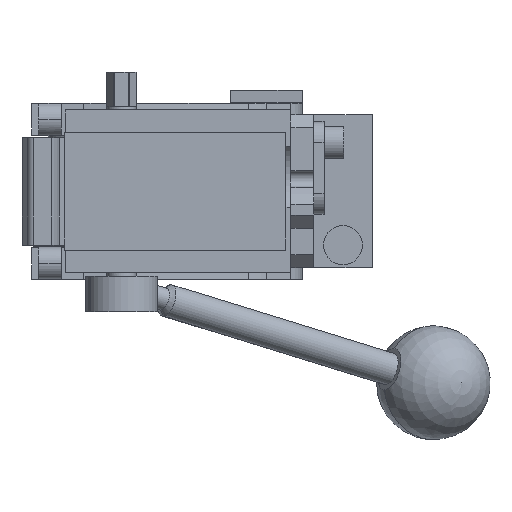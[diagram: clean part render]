
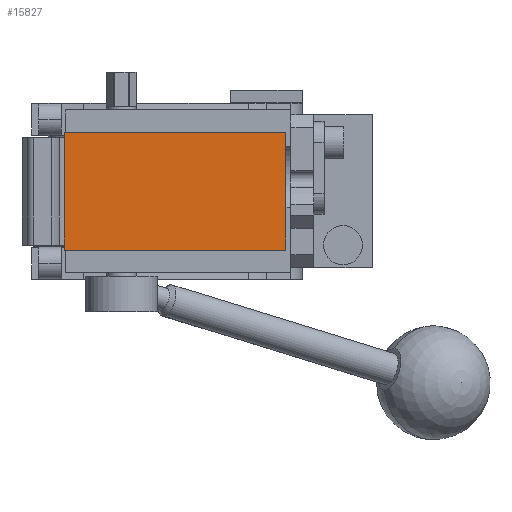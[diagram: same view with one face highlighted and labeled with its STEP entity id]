
A CAD part, front view. The second image highlights one B-rep face of the part: STEP entity #15827.
In plain terms, the highlighted planar face has unit normal (0, -1, 0).
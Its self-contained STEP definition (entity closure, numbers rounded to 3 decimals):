
#144 = AXIS2_PLACEMENT_3D ( 'NONE', #1586, #281, #15249 ) ;
#214 = DIRECTION ( 'NONE',  ( 1., 0., 0. ) ) ;
#281 = DIRECTION ( 'NONE',  ( 0., -1., 0. ) ) ;
#283 = CARTESIAN_POINT ( 'NONE',  ( -6., -233., -18. ) ) ;
#1073 = VERTEX_POINT ( 'NONE', #13337 ) ;
#1349 = VECTOR ( 'NONE', #11882, 1000. ) ;
#1501 = CARTESIAN_POINT ( 'NONE',  ( -6., -233., 18. ) ) ;
#1586 = CARTESIAN_POINT ( 'NONE',  ( 0., -233., 0. ) ) ;
#1594 = ORIENTED_EDGE ( 'NONE', *, *, #3983, .T. ) ;
#1655 = ORIENTED_EDGE ( 'NONE', *, *, #13562, .T. ) ;
#2299 = EDGE_LOOP ( 'NONE', ( #1655, #1594, #6024, #11407 ) ) ;
#2897 = VECTOR ( 'NONE', #4931, 1000. ) ;
#3983 = EDGE_CURVE ( 'NONE', #5981, #1073, #11650, .T. ) ;
#4051 = FACE_OUTER_BOUND ( 'NONE', #2299, .T. ) ;
#4773 = LINE ( 'NONE', #11048, #2897 ) ;
#4931 = DIRECTION ( 'NONE',  ( -1., 0., 0. ) ) ;
#5981 = VERTEX_POINT ( 'NONE', #6146 ) ;
#6024 = ORIENTED_EDGE ( 'NONE', *, *, #12856, .T. ) ;
#6146 = CARTESIAN_POINT ( 'NONE',  ( -6., -233., -18. ) ) ;
#6310 = VECTOR ( 'NONE', #14964, 1000. ) ;
#6432 = VERTEX_POINT ( 'NONE', #1501 ) ;
#8608 = LINE ( 'NONE', #11284, #6310 ) ;
#11048 = CARTESIAN_POINT ( 'NONE',  ( -6., -233., 18. ) ) ;
#11284 = CARTESIAN_POINT ( 'NONE',  ( 62., -233., 18. ) ) ;
#11407 = ORIENTED_EDGE ( 'NONE', *, *, #12909, .T. ) ;
#11579 = CARTESIAN_POINT ( 'NONE',  ( 62., -233., 18. ) ) ;
#11650 = LINE ( 'NONE', #283, #15098 ) ;
#11882 = DIRECTION ( 'NONE',  ( 0., 0., -1. ) ) ;
#12856 = EDGE_CURVE ( 'NONE', #1073, #15582, #8608, .T. ) ;
#12909 = EDGE_CURVE ( 'NONE', #15582, #6432, #4773, .T. ) ;
#13337 = CARTESIAN_POINT ( 'NONE',  ( 62., -233., -18. ) ) ;
#13350 = CARTESIAN_POINT ( 'NONE',  ( -6., -233., 18. ) ) ;
#13562 = EDGE_CURVE ( 'NONE', #6432, #5981, #14661, .T. ) ;
#13865 = PLANE ( 'NONE',  #144 ) ;
#14661 = LINE ( 'NONE', #13350, #1349 ) ;
#14964 = DIRECTION ( 'NONE',  ( 0., 0., 1. ) ) ;
#15098 = VECTOR ( 'NONE', #214, 1000. ) ;
#15249 = DIRECTION ( 'NONE',  ( 0., 0., -1. ) ) ;
#15582 = VERTEX_POINT ( 'NONE', #11579 ) ;
#15827 = ADVANCED_FACE ( 'NONE', ( #4051 ), #13865, .T. ) ;
